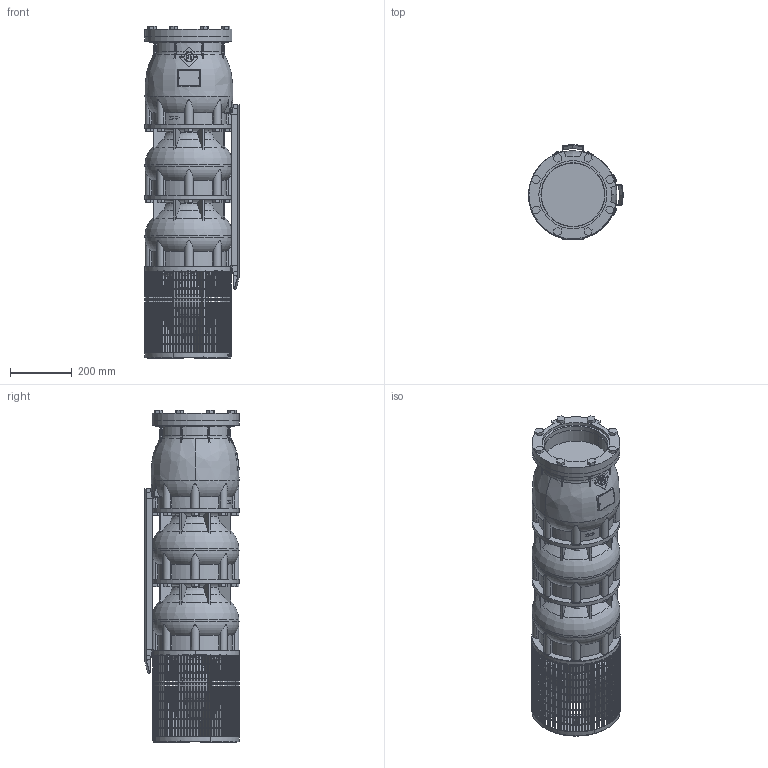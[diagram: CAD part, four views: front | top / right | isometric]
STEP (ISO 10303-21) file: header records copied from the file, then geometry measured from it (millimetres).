
FILE_DESCRIPTION(/* description */ ('-'),/* implementation_level */ '2;1');
FILE_NAME(/* name */ 'VSI454-2-2F_WF_M8-50_SLE',/* time_stamp */ '2026-01-21T14:12:04+01:00',/* author */ ('Simonelli M.'),/* organization */ ('Franklin Electric Srl'),/* preprocessor_version */ 'ST-DEVELOPER v18.102',/* originating_system */ 'Solid Edge',/* authorisation */ 'Unknown');
FILE_SCHEMA (('AP242_MANAGED_MODEL_BASED_3D_ENGINEERING_MIM_LF { 1 0 10303 442 1 1 4 }','AUTOMOTIVE_DESIGN {1 0 10303 214 3 1 1}'));
Products named in the file (12): VSI454-2-2F_WF_M8-50_sLE; VSI344-454_testata; VSI344-454_supporto; VSI344-454_filtro_A; VSI344-454_filtro_B; VSI344-454_terminale_top_copricavo_basso; VSI344-454_terminale_bottom_copricavo_basso; LOW 454-2; VSI454_diffusore; M5X8_UNI7687; VSI184-254_giunto_10×8; VSI344-454_flangia_testata
Assembly tree (26 placements, depth 2):
  VSI454-2-2F_WF_M8-50_sLE
    VSI344-454_testata
    VSI344-454_supporto
    VSI344-454_filtro_A
    VSI344-454_filtro_B
    VSI344-454_terminale_top_copricavo_basso  x2
    VSI344-454_terminale_bottom_copricavo_basso  x2
    LOW 454-2  x2
    VSI454_diffusore  x2
    M5X8_UNI7687  x12
    VSI184-254_giunto_10×8
    VSI344-454_flangia_testata
Bounding box: 306.94 x 306.94 x 1075 mm (x, y, z)
Volume: 40763987.6 mm3; surface area: 2517625 mm2
Topology: 91 solids, 91 shells, 4217 faces, 11865 edges, 7879 vertices
Faces by surface type: plane 3403, cylinder 531, torus 175, cone 81, bspline 15, sphere 12
Full cylindrical faces by diameter (mm): 5 x12, 16 x8, 35 x1, 65 x1, 69 x1, 150 x1, 207 x1, 220.5 x1, 284.507 x2, 285 x2
Entity records: 127622 total; most frequent: CARTESIAN_POINT 28632, ORIENTED_EDGE 20792, DIRECTION 19900, EDGE_CURVE 10396, VERTEX_POINT 6933, AXIS2_PLACEMENT_3D 6721, LINE 6458, VECTOR 6458
